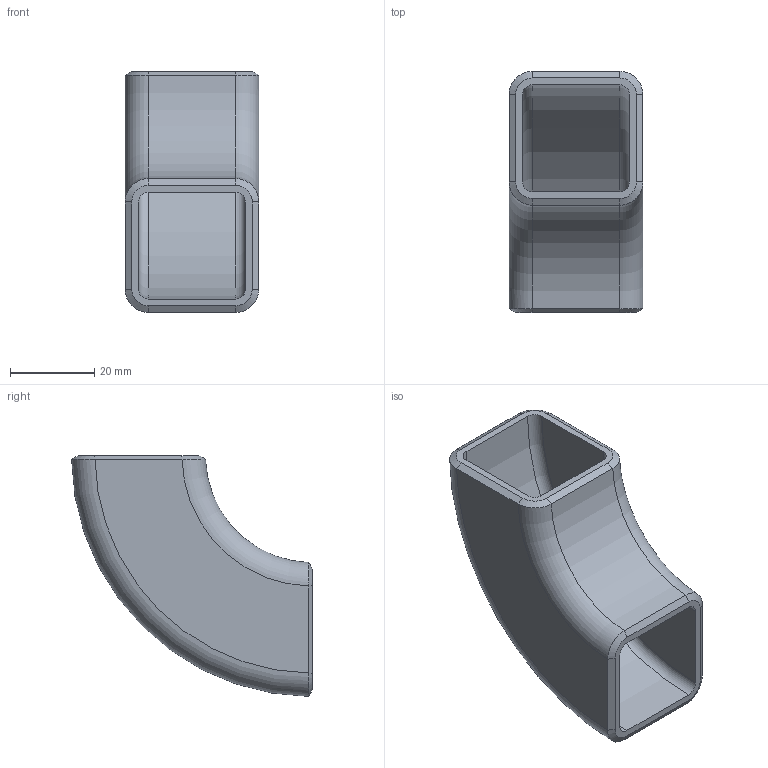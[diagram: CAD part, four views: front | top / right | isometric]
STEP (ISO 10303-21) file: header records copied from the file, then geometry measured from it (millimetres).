
FILE_DESCRIPTION((''),'2;1');
FILE_NAME('C:\Documents and Settings\bamfomg\Desktop\Owens corners\STP FILES\1.25x1.25x0.125 - Steel.stp','2011-03-21T13:12:33',('bamfomg'),(''),'Autodesk Inventor 2011','Autodesk Inventor 2011','');
FILE_SCHEMA(('AUTOMOTIVE_DESIGN { 1 0 10303 214 1 1 1 1 }'));
Length unit declared in the file: inch
Products named in the file (1): Square Tube Corners
Bounding box: 31.75 x 57.14 x 57.14 mm (x, y, z)
Volume: 21964.2 mm3; surface area: 14463.4 mm2
Topology: 1 solids, 1 shells, 34 faces, 80 edges, 48 vertices
Faces by surface type: bspline 16, torus 8, plane 6, cylinder 4
Entity records: 1502 total; most frequent: CARTESIAN_POINT 817, ORIENTED_EDGE 160, DIRECTION 94, EDGE_CURVE 80, VERTEX_POINT 48, B_SPLINE_CURVE_WITH_KNOTS 46, AXIS2_PLACEMENT_3D 43, EDGE_LOOP 36
